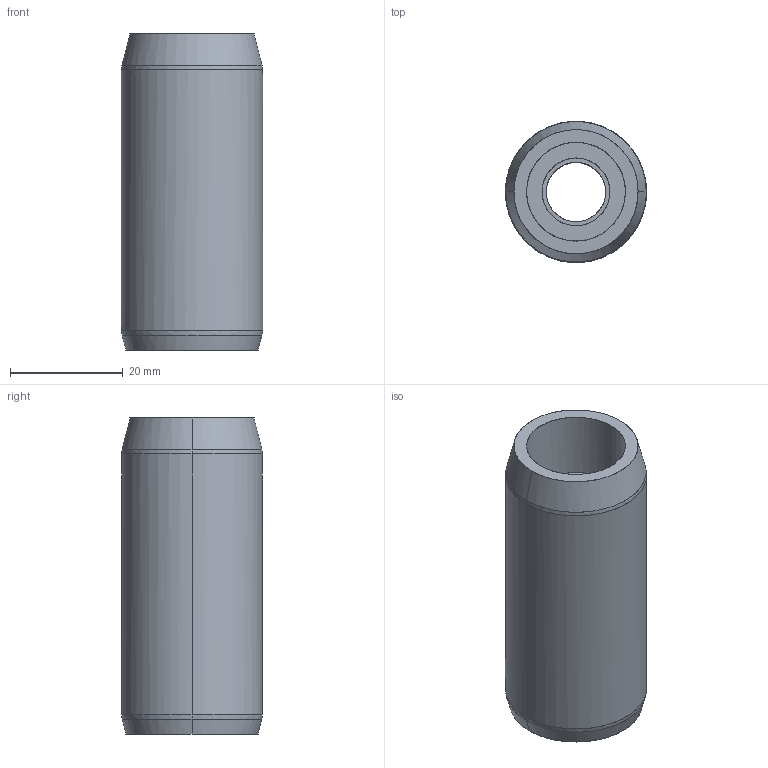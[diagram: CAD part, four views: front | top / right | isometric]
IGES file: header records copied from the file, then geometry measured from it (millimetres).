
Global section: file name: E:\UnigraphicsGraphicData\MISUMI_PRESS-PARTS\IGES\3d_tlpb25_07125_r00.igs; native system: NX V5.0; preprocessor: UGS NX IGES V5.0; author: MISUMI; date: 20110105.163430; units: millimetre
Bounding box: 25 x 24.98 x 56 mm (x, y, z)
Surface area: 7227.5 mm2 (no closed solid volume)
Topology: 0 solids, 0 shells, 20 faces, 128 edges, 128 vertices
Faces by surface type: bspline 20
